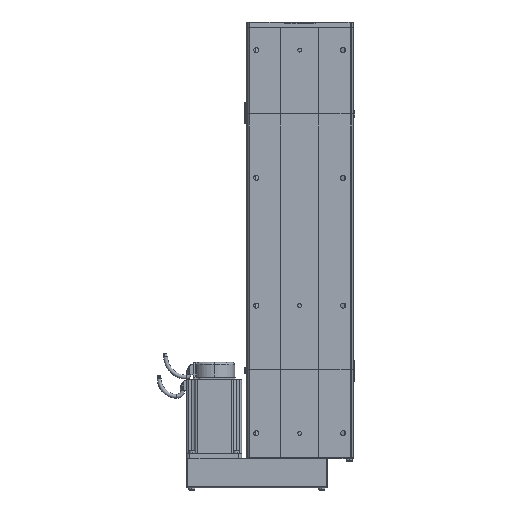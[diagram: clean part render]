
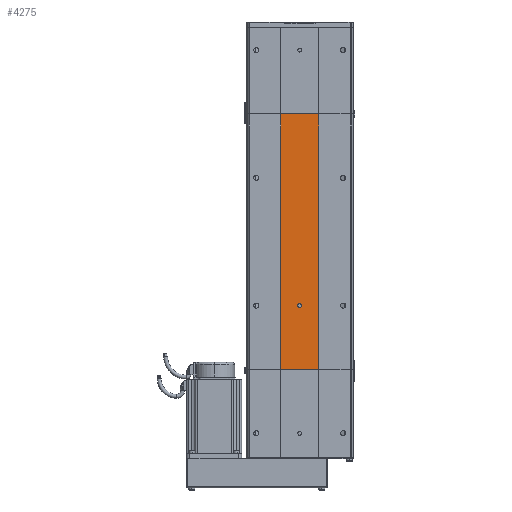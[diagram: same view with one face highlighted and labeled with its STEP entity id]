
A CAD part, front view. The second image highlights one B-rep face of the part: STEP entity #4275.
In plain terms, the highlighted planar face has unit normal (0, -1, 0).
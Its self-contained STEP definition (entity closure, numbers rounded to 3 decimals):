
#3737 = EDGE_CURVE ( 'NONE', #3739, #4073, #52515, .T. ) ;
#3739 = VERTEX_POINT ( 'NONE', #52511 ) ;
#4073 = VERTEX_POINT ( 'NONE', #52593 ) ;
#4164 = EDGE_LOOP ( 'NONE', ( #4166, #4207, #4169, #4241 ) ) ;
#4166 = ORIENTED_EDGE ( 'NONE', *, *, #4849, .T. ) ;
#4167 = EDGE_CURVE ( 'NONE', #3739, #4893, #52768, .T. ) ;
#4169 = ORIENTED_EDGE ( 'NONE', *, *, #3737, .F. ) ;
#4207 = ORIENTED_EDGE ( 'NONE', *, *, #4216, .F. ) ;
#4210 = ORIENTED_EDGE ( 'NONE', *, *, #4272, .F. ) ;
#4216 = EDGE_CURVE ( 'NONE', #4073, #4860, #52831, .T. ) ;
#4217 = EDGE_LOOP ( 'NONE', ( #4210, #4240 ) ) ;
#4240 = ORIENTED_EDGE ( 'NONE', *, *, #11845, .F. ) ;
#4241 = ORIENTED_EDGE ( 'NONE', *, *, #4167, .T. ) ;
#4272 = EDGE_CURVE ( 'NONE', #11848, #11889, #52971, .T. ) ;
#4275 = ADVANCED_FACE ( 'NONE', ( #52923, #52972 ), #52937, .F. ) ;
#4849 = EDGE_CURVE ( 'NONE', #4893, #4860, #54004, .T. ) ;
#4860 = VERTEX_POINT ( 'NONE', #53772 ) ;
#4893 = VERTEX_POINT ( 'NONE', #54066 ) ;
#11845 = EDGE_CURVE ( 'NONE', #11889, #11848, #28806, .T. ) ;
#11848 = VERTEX_POINT ( 'NONE', #28757 ) ;
#11889 = VERTEX_POINT ( 'NONE', #29252 ) ;
#28752 = DIRECTION ( 'NONE',  ( 0., 0., -1. ) ) ;
#28753 = DIRECTION ( 'NONE',  ( 0., -1., 0. ) ) ;
#28755 = CARTESIAN_POINT ( 'NONE',  ( 0., -32.5, 100. ) ) ;
#28757 = CARTESIAN_POINT ( 'NONE',  ( 0., -32.5, 97. ) ) ;
#28778 = AXIS2_PLACEMENT_3D ( 'NONE', #28755, #28753, #28752 ) ;
#28806 = CIRCLE ( 'NONE', #28778, 3. ) ;
#29252 = CARTESIAN_POINT ( 'NONE',  ( 0., -32.5, 103. ) ) ;
#52511 = CARTESIAN_POINT ( 'NONE',  ( 30., -32.5, 0. ) ) ;
#52512 = DIRECTION ( 'NONE',  ( -1., 0., 0. ) ) ;
#52513 = VECTOR ( 'NONE', #52512, 1000. ) ;
#52514 = CARTESIAN_POINT ( 'NONE',  ( -30., -32.5, 0. ) ) ;
#52515 = LINE ( 'NONE', #52514, #52513 ) ;
#52593 = CARTESIAN_POINT ( 'NONE',  ( -30., -32.5, 0. ) ) ;
#52765 = DIRECTION ( 'NONE',  ( 0., 0., 1. ) ) ;
#52766 = VECTOR ( 'NONE', #52765, 1000. ) ;
#52767 = CARTESIAN_POINT ( 'NONE',  ( 30., -32.5, 0. ) ) ;
#52768 = LINE ( 'NONE', #52767, #52766 ) ;
#52831 = LINE ( 'NONE', #52854, #52841 ) ;
#52840 = DIRECTION ( 'NONE',  ( 0., 0., 1. ) ) ;
#52841 = VECTOR ( 'NONE', #52840, 1000. ) ;
#52854 = CARTESIAN_POINT ( 'NONE',  ( -30., -32.5, 0. ) ) ;
#52923 = FACE_BOUND ( 'NONE', #4217, .T. ) ;
#52937 = PLANE ( 'NONE',  #52963 ) ;
#52960 = DIRECTION ( 'NONE',  ( 0., 0., 1. ) ) ;
#52961 = DIRECTION ( 'NONE',  ( 0., 1., 0. ) ) ;
#52962 = CARTESIAN_POINT ( 'NONE',  ( -30., -32.5, 0. ) ) ;
#52963 = AXIS2_PLACEMENT_3D ( 'NONE', #52962, #52961, #52960 ) ;
#52967 = DIRECTION ( 'NONE',  ( 0., 0., -1. ) ) ;
#52968 = DIRECTION ( 'NONE',  ( 0., -1., 0. ) ) ;
#52969 = CARTESIAN_POINT ( 'NONE',  ( 0., -32.5, 100. ) ) ;
#52970 = AXIS2_PLACEMENT_3D ( 'NONE', #52969, #52968, #52967 ) ;
#52971 = CIRCLE ( 'NONE', #52970, 3. ) ;
#52972 = FACE_OUTER_BOUND ( 'NONE', #4164, .T. ) ;
#53772 = CARTESIAN_POINT ( 'NONE',  ( -30., -32.5, 400. ) ) ;
#53998 = DIRECTION ( 'NONE',  ( -1., 0., 0. ) ) ;
#53999 = VECTOR ( 'NONE', #53998, 1000. ) ;
#54000 = CARTESIAN_POINT ( 'NONE',  ( -30., -32.5, 400. ) ) ;
#54004 = LINE ( 'NONE', #54000, #53999 ) ;
#54066 = CARTESIAN_POINT ( 'NONE',  ( 30., -32.5, 400. ) ) ;
